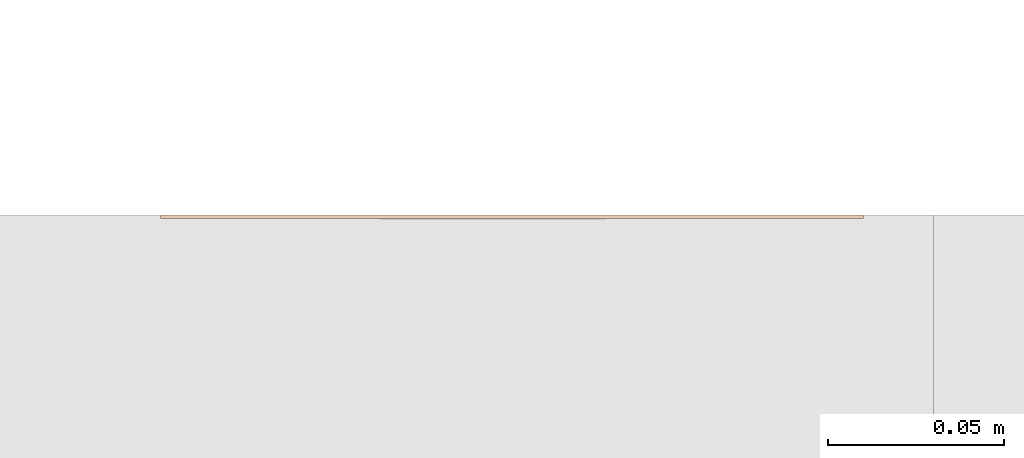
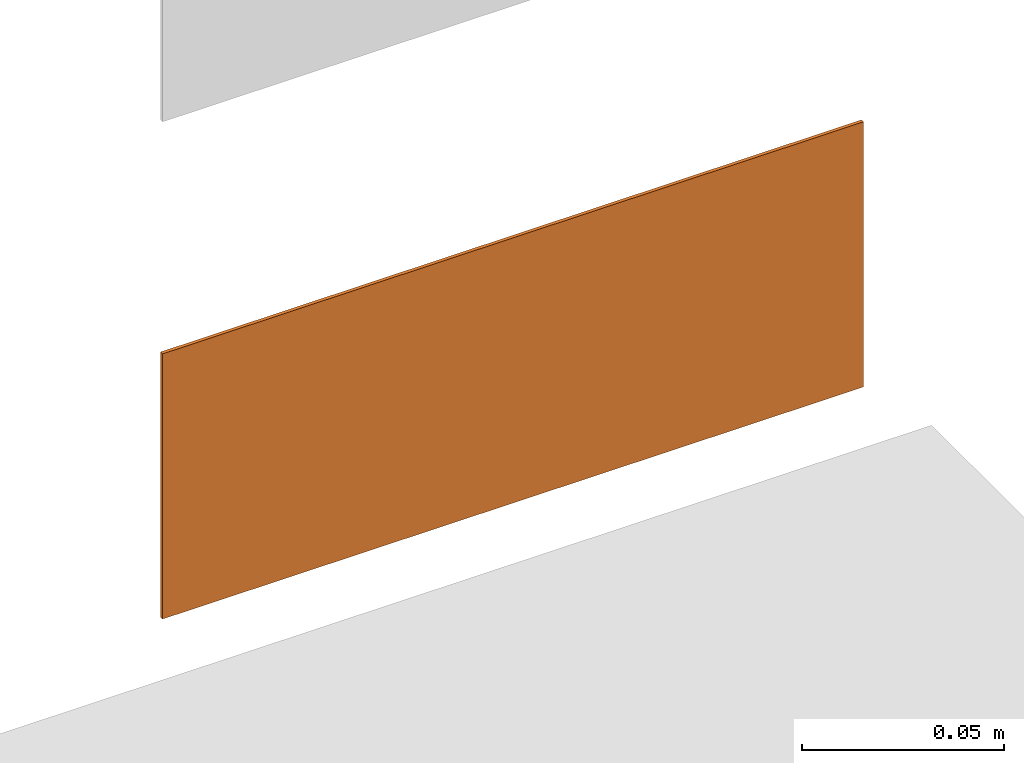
# One storey, part 112 of 119: 1 proxy.
"""IFC2X3 building model written with IfcOpenShell, lengths in metres."""

from ifc_helpers import new_model, entity, si_unit, converted_unit, derived_unit, direction, frame, frame_2d, origin, origin_2d_with_axis, place, context, subcontext, project, spatial, polyline, circle_curve, parameter, trimmed, segment, composite_curve, rectangle, outline, extrude, source, transform, mapped, material, material_list, type_object, type_shapes, element, save


model = new_model("IFC2X3")

# Units and contexts
model_context = context("Model", 3, precision=1e-05, world=origin(), true_north=direction((6.12303176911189e-17, 1.0)))
body_context = subcontext(model_context, "Body", "Model", "MODEL_VIEW")
ifc_project = project(units=[si_unit("LENGTHUNIT", "METRE"), si_unit("AREAUNIT", "SQUARE_METRE"), si_unit("VOLUMEUNIT", "CUBIC_METRE"), converted_unit("PLANEANGLEUNIT", "DEGREE", entity("IfcRatioMeasure", 0.0174532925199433), si_unit("PLANEANGLEUNIT", "RADIAN"), dimensions=[0, 0, 0, 0, 0, 0, 0]), si_unit("MASSUNIT", "GRAM", prefix="KILO"), derived_unit("MASSDENSITYUNIT", [(si_unit("MASSUNIT", "GRAM", prefix="KILO"), 1), (si_unit("LENGTHUNIT", "METRE"), -3)]), derived_unit("MOMENTOFINERTIAUNIT", [(si_unit("LENGTHUNIT", "METRE"), 4)]), si_unit("TIMEUNIT", "SECOND"), si_unit("FREQUENCYUNIT", "HERTZ"), si_unit("THERMODYNAMICTEMPERATUREUNIT", "DEGREE_CELSIUS"), derived_unit("THERMALTRANSMITTANCEUNIT", [(si_unit("MASSUNIT", "GRAM", prefix="KILO"), 1), (si_unit("THERMODYNAMICTEMPERATUREUNIT", "KELVIN"), -1), (si_unit("TIMEUNIT", "SECOND"), -3)]), derived_unit("VOLUMETRICFLOWRATEUNIT", [(si_unit("LENGTHUNIT", "METRE"), 3), (si_unit("TIMEUNIT", "SECOND"), -1)]), si_unit("ELECTRICCURRENTUNIT", "AMPERE"), si_unit("ELECTRICVOLTAGEUNIT", "VOLT"), si_unit("POWERUNIT", "WATT"), si_unit("FORCEUNIT", "NEWTON", prefix="KILO"), si_unit("ILLUMINANCEUNIT", "LUX"), si_unit("LUMINOUSFLUXUNIT", "LUMEN"), si_unit("LUMINOUSINTENSITYUNIT", "CANDELA"), derived_unit("USERDEFINED", [(si_unit("MASSUNIT", "GRAM", prefix="KILO"), -1), (si_unit("LENGTHUNIT", "METRE"), -2), (si_unit("TIMEUNIT", "SECOND"), 3), (si_unit("LUMINOUSFLUXUNIT", "LUMEN"), 1)]), derived_unit("LINEARVELOCITYUNIT", [(si_unit("LENGTHUNIT", "METRE"), 1), (si_unit("TIMEUNIT", "SECOND"), -1)]), si_unit("PRESSUREUNIT", "PASCAL"), derived_unit("USERDEFINED", [(si_unit("LENGTHUNIT", "METRE"), -2), (si_unit("MASSUNIT", "GRAM", prefix="KILO"), 1), (si_unit("TIMEUNIT", "SECOND"), -2)]), derived_unit("LINEARFORCEUNIT", [(si_unit("MASSUNIT", "GRAM", prefix="KILO"), 1), (si_unit("LENGTHUNIT", "METRE"), 1), (si_unit("TIMEUNIT", "SECOND"), -2), (si_unit("LENGTHUNIT", "METRE"), -1)]), derived_unit("PLANARFORCEUNIT", [(si_unit("MASSUNIT", "GRAM", prefix="KILO"), 1), (si_unit("LENGTHUNIT", "METRE"), 1), (si_unit("TIMEUNIT", "SECOND"), -2), (si_unit("LENGTHUNIT", "METRE"), -2)])], contexts=[model_context])

# Site, building, storey
site_placement = place(None, origin())
site = spatial("IfcSite", under=ifc_project, at=site_placement, Name="Default", CompositionType="ELEMENT")
building_placement = place(site_placement, origin())
building = spatial("IfcBuilding", under=site, at=building_placement, CompositionType="ELEMENT")
storey_placement = place(building_placement, origin())
storey = spatial("IfcBuildingStorey", under=building, at=storey_placement, Name="PAV. 01 - TÉRREO", CompositionType="ELEMENT", Elevation=0.0)

# Proxy
ifc_material_1 = material(Name="Plastico Preto")
ifc_material_2 = material(Name="Plastico azul claro")
ifc_material_3 = material(Name="Plastico vermelho")
ifc_material_4 = material(Name="Plastico branco")
ifc_material_5 = material(Name="Plastico Verde")
ifc_material_list = material_list([ifc_material_1, ifc_material_2, ifc_material_3, ifc_material_4, ifc_material_5])
building_element_proxy_type = type_object("IfcBuildingElementProxyType", Name="Sinalização de equipamentos - E05 - Extintor de incêndio - TIPO 2:Placa de extintor - E6-A", PredefinedType="NOTDEFINED", material=ifc_material_1)
shared_shape = source(origin(), body_context, "Body", "SweptSolid", [
    extrude(rectangle(XDim=0.001, YDim=0.0243464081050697, at=origin_2d_with_axis()), frame((0.0791678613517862, -0.0005, 0.0143679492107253), z_axis=(0.0, 0.0, 1.0), x_axis=(0.0, 1.0, 0.0)), (0.0, 0.0, 1.0), 0.0243153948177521),
    extrude(rectangle(XDim=0.001, YDim=0.0243464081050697, at=origin_2d_with_axis()), frame((0.0514092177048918, -0.0005, 0.0143679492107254), z_axis=(0.0, 0.0, 1.0), x_axis=(0.0, 1.0, 0.0)), (0.0, 0.0, 1.0), 0.0243153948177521),
    extrude(rectangle(XDim=0.001, YDim=0.0243464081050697, at=origin_2d_with_axis()), frame((0.023605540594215, -0.0005, 0.0143679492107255), z_axis=(0.0, 0.0, 1.0), x_axis=(0.0, 1.0, 0.0)), (0.0, 0.0, 1.0), 0.0243153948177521),
    extrude(rectangle(XDim=0.001, YDim=0.0243464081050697, at=origin_2d_with_axis()), frame((-0.00415310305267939, -0.0005, 0.0143679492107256), z_axis=(0.0, 0.0, 1.0), x_axis=(0.0, 1.0, 0.0)), (0.0, 0.0, 1.0), 0.0243153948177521),
    extrude(outline(polyline([(-0.0399999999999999, -0.1), (0.0399999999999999, -0.1), (0.0399999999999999, 0.1), (-0.0399999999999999, 0.1), (-0.0399999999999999, -0.1)]), holes=[polyline([(-0.0319999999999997, 0.091), (-0.0150022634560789, 0.091), (-0.0150022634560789, -0.091), (-0.0319999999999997, -0.091), (-0.0319999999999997, 0.091)]), polyline([(-0.010791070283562, 0.091), (0.0319999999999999, 0.091), (0.0319999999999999, 0.0473282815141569), (-0.010791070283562, 0.0473282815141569), (-0.010791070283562, 0.091)]), polyline([(0.00131665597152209, 0.0441091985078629), (0.0256320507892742, 0.0441091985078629), (0.0256320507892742, 0.0197627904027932), (0.00131665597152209, 0.0197627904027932), (0.00131665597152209, 0.0441091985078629)]), polyline([(0.00131665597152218, 0.0163263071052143), (0.0256320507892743, 0.0163263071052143), (0.0256320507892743, -0.00802010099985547), (0.00131665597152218, -0.00802010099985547), (0.00131665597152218, 0.0163263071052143)]), polyline([(0.00131665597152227, -0.0114323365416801), (0.0256320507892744, -0.0114323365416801), (0.0256320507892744, -0.0357787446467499), (0.00131665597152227, -0.0357787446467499), (0.00131665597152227, -0.0114323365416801)]), polyline([(0.00131665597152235, -0.0635824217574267), (0.00131665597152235, -0.039236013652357), (0.0256320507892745, -0.039236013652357), (0.0256320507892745, -0.0635824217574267), (0.00131665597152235, -0.0635824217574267)]), polyline([(0.00131665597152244, -0.0669946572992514), (0.0256320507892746, -0.0669946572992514), (0.0256320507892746, -0.091), (0.00131665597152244, -0.091), (0.00131665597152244, -0.0669946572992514)])]), frame((0.0, -0.001, 0.0399999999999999), z_axis=(0.0, 1.0, 0.0), x_axis=(0.0, 0.0, -1.0)), (0.0, 0.0, 1.0), 0.001),
    extrude(outline(composite_curve([segment(trimmed(circle_curve(frame_2d((-0.00182713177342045, 0.0030692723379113), x_axis=(1.0, 0.0)), 0.00333179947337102), [parameter(180.0)], [parameter(270.0)], True, "PARAMETER"), True, "CONTINUOUS"), segment(polyline([(-0.00182713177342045, -0.000262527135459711), (-0.000430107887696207, -0.000262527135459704)]), True, "CONTINUOUS"), segment(polyline([(-0.000430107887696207, -0.000262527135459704), (-0.000430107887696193, -0.00350797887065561)]), True, "CONTINUOUS"), segment(polyline([(-0.000430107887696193, -0.00350797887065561), (-0.00249820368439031, -0.00350797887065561)]), True, "CONTINUOUS"), segment(polyline([(-0.00249820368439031, -0.00350797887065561), (-0.00742535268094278, 7.18044171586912e-05)]), True, "CONTINUOUS"), segment(polyline([(-0.00742535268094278, 7.18044171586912e-05), (-0.00742535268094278, 0.00166630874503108)]), True, "CONTINUOUS"), segment(polyline([(-0.00742535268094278, 0.00166630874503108), (-0.00871124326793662, 0.00166630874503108)]), True, "CONTINUOUS"), segment(polyline([(-0.00871124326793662, 0.00166630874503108), (-0.00846384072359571, -0.00134355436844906)]), True, "CONTINUOUS"), segment(trimmed(circle_curve(frame_2d((-0.00608099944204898, -0.00114769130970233), x_axis=(1.0, 0.0)), 0.00239087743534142), [parameter(184.698993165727)], [parameter(232.0)], True, "PARAMETER"), True, "CONTINUOUS"), segment(polyline([(-0.00755297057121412, -0.00303172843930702), (-0.0030496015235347, -0.00655014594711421)]), True, "CONTINUOUS"), segment(polyline([(-0.0030496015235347, -0.00655014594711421), (-0.000124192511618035, -0.00655014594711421)]), True, "CONTINUOUS"), segment(polyline([(-0.000124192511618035, -0.00655014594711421), (-0.000124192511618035, -0.00788602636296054)]), True, "CONTINUOUS"), segment(polyline([(-0.000124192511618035, -0.00788602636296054), (0.003207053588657, -0.00788602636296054)]), True, "CONTINUOUS"), segment(polyline([(0.003207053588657, -0.00788602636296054), (0.003207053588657, -0.00698801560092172)]), True, "CONTINUOUS"), segment(polyline([(0.003207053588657, -0.00698801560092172), (0.00540783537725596, -0.00698801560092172)]), True, "CONTINUOUS"), segment(polyline([(0.00540783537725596, -0.00698801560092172), (0.00665542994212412, -0.00574042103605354)]), True, "CONTINUOUS"), segment(polyline([(0.00665542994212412, -0.00574042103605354), (0.00665542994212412, -0.00450724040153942)]), True, "CONTINUOUS"), segment(polyline([(0.00665542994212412, -0.00450724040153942), (0.00491919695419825, -0.00324579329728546)]), True, "CONTINUOUS"), segment(polyline([(0.00491919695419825, -0.00324579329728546), (0.00355615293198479, -0.00324579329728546)]), True, "CONTINUOUS"), segment(polyline([(0.00355615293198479, -0.00324579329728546), (0.00355615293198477, -0.000262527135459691)]), True, "CONTINUOUS"), segment(polyline([(0.00355615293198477, -0.000262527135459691), (0.00500257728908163, -0.000262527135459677)]), True, "CONTINUOUS"), segment(trimmed(circle_curve(frame_2d((0.00500257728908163, 0.00284153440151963), x_axis=(1.0, 0.0)), 0.00310406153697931), [parameter(270.0)], [parameter(1.52666624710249e-13)], True, "PARAMETER"), True, "CONTINUOUS"), segment(polyline([(0.00810663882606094, 0.00284153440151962), (0.0081066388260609, 0.0313568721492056)]), True, "CONTINUOUS"), segment(polyline([(0.0081066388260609, 0.0313568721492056), (-0.00515893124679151, 0.0313568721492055)]), True, "CONTINUOUS"), segment(polyline([(-0.00515893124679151, 0.0313568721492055), (-0.00515893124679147, 0.00306927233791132)]), True, "CONTINUOUS")], self_intersect=False)), frame((-0.0705753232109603, -0.001, 0.0413479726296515), z_axis=(0.0, 1.0, 0.0), x_axis=(1.0, 0.0, 0.0)), (0.0, 0.0, 1.0), 0.001),
    extrude(rectangle(XDim=0.001, YDim=0.0243464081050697, at=origin_2d_with_axis()), frame((-0.0319359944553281, -0.0005, 0.0143679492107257), z_axis=(0.0, 0.0, 1.0), x_axis=(0.0, 1.0, 0.0)), (0.0, 0.0, 1.0), 0.0243153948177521),
    extrude(outline(polyline([(-0.0218358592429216, -0.021395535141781), (0.0218358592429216, -0.021395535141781), (0.0218358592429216, 0.021395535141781), (-0.0218358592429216, 0.021395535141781), (-0.0218358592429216, -0.021395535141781)]), holes=[composite_curve([segment(polyline([(-0.00669545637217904, -0.0194044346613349), (-0.00669545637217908, 0.00911090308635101)]), True, "CONTINUOUS"), segment(trimmed(circle_curve(frame_2d((-0.00359139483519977, 0.00911090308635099), x_axis=(-1.0, 0.0)), 0.00310406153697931), [parameter(270.0)], [parameter(360.0)], True, "PARAMETER"), False, "CONTINUOUS"), segment(polyline([(-0.0035913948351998, 0.0122149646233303), (-0.00214497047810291, 0.0122149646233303)]), True, "CONTINUOUS"), segment(polyline([(-0.00214497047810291, 0.0122149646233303), (-0.00214497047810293, 0.0151982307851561)]), True, "CONTINUOUS"), segment(polyline([(-0.00214497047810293, 0.0151982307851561), (-0.0035080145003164, 0.0151982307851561)]), True, "CONTINUOUS"), segment(polyline([(-0.0035080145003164, 0.0151982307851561), (-0.00524424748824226, 0.01645967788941)]), True, "CONTINUOUS"), segment(polyline([(-0.00524424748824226, 0.01645967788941), (-0.00524424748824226, 0.0176928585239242)]), True, "CONTINUOUS"), segment(polyline([(-0.00524424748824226, 0.0176928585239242), (-0.0039966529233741, 0.0189404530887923)]), True, "CONTINUOUS"), segment(polyline([(-0.0039966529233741, 0.0189404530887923), (-0.00179587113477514, 0.0189404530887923)]), True, "CONTINUOUS"), segment(polyline([(-0.00179587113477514, 0.0189404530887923), (-0.00179587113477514, 0.0198384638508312)]), True, "CONTINUOUS"), segment(polyline([(-0.00179587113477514, 0.0198384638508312), (0.00153537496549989, 0.0198384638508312)]), True, "CONTINUOUS"), segment(polyline([(0.00153537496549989, 0.0198384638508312), (0.00153537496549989, 0.0185025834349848)]), True, "CONTINUOUS"), segment(polyline([(0.00153537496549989, 0.0185025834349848), (0.00446078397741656, 0.0185025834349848)]), True, "CONTINUOUS"), segment(polyline([(0.00446078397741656, 0.0185025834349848), (0.00896415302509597, 0.0149841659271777)]), True, "CONTINUOUS"), segment(trimmed(circle_curve(frame_2d((0.00749218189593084, 0.0131001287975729), x_axis=(-1.0, 0.0)), 0.00239087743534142), [parameter(184.698993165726)], [parameter(231.999999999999)], True, "PARAMETER"), False, "CONTINUOUS"), segment(polyline([(0.00987502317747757, 0.0132959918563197), (0.0101224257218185, 0.0102861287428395)]), True, "CONTINUOUS"), segment(polyline([(0.0101224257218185, 0.0102861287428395), (0.00883653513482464, 0.0102861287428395)]), True, "CONTINUOUS"), segment(polyline([(0.00883653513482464, 0.0102861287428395), (0.00883653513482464, 0.0118806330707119)]), True, "CONTINUOUS"), segment(polyline([(0.00883653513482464, 0.0118806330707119), (0.00390938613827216, 0.0154604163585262)]), True, "CONTINUOUS"), segment(polyline([(0.00390938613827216, 0.0154604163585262), (0.00184129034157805, 0.0154604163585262)]), True, "CONTINUOUS"), segment(polyline([(0.00184129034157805, 0.0154604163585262), (0.00184129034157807, 0.0122149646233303)]), True, "CONTINUOUS"), segment(polyline([(0.00184129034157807, 0.0122149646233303), (0.00323831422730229, 0.0122149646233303)]), True, "CONTINUOUS"), segment(trimmed(circle_curve(frame_2d((0.00323831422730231, 0.00888316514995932), x_axis=(-1.0, 0.0)), 0.00333179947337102), [parameter(180.0)], [parameter(270.0)], True, "PARAMETER"), False, "CONTINUOUS"), segment(polyline([(0.00657011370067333, 0.00888316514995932), (0.00657011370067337, -0.0194044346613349)]), True, "CONTINUOUS"), segment(polyline([(0.00657011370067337, -0.0194044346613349), (-0.00669545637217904, -0.0194044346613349)]), True, "CONTINUOUS")], self_intersect=False)]), frame((-0.0691641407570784, -0.001, 0.0293955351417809), z_axis=(0.0, 1.0, 0.0), x_axis=(-1.0, 0.0, 0.0)), (0.0, 0.0, 1.0), 0.001),
    extrude(rectangle(XDim=0.001, YDim=0.182, at=origin_2d_with_axis()), frame((0.0, -0.0005, 0.0550022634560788), z_axis=(0.0, 0.0, 1.0), x_axis=(0.0, 1.0, 0.0)), (0.0, 0.0, 1.0), 0.0169977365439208),
])
type_shapes(building_element_proxy_type, [shared_shape])
proxy_placement = place(storey_placement, frame((3.92406052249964, 66.8067778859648, 1.65)))
element("IfcBuildingElementProxy", 1, at=proxy_placement, inside=storey, type_object=building_element_proxy_type, material=ifc_material_list, Name="Sinalização de equipamentos - E05 - Extintor de incêndio - TIPO 2:Placa de extintor - E6-A", ObjectType="Sinalização de equipamentos - E05 - Extintor de incêndio - TIPO 2:Placa de extintor - E6-A", context=body_context, shape_type="MappedRepresentation", body=[
    mapped(shared_shape, transform((0.0, 0.0, 0.0), scale=1.0)),
])

save(model, "model.ifc")
